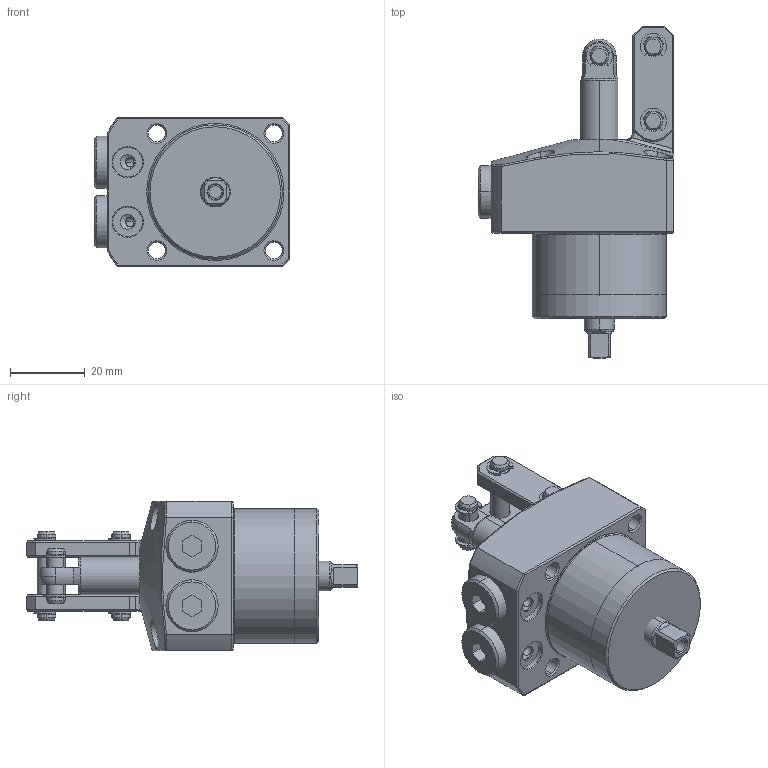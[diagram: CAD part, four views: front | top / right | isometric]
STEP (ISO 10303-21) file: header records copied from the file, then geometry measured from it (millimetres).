
FILE_DESCRIPTION(/* description */ (''),/* implementation_level */ '2;1');
FILE_NAME(/* name */ 'KTPC36-FD.stp',/* time_stamp */ '2022-11-18T16:01:53+08:00',/* author */ (''),/* organization */ (''),/* preprocessor_version */ 'ST-DEVELOPER v16.7',/* originating_system */ 'SIEMENS PLM Software NX 12.0',/* authorisation */ '');
FILE_SCHEMA (('AP203_CONFIGURATION_CONTROLLED_3D_DESIGN_OF_MECHANICAL_PARTS_AND_ASSEMBLIES_MIM_LF { 1 0 10303 403 2 1 2}'));
Length unit declared in the file: millimetre
Products named in the file (9): KTPC36-FD-01; KTPC36-FD-02; KTPC36-FD-05; KTPC36-FD-03; KTPC36-FD-07; KTPC36-FD-06; KTPC36-FD-04; KTPC36-FD-08; LKA0360-CCD_step
Assembly tree (16 placements, depth 2):
  LKA0360-CCD_step
    KTPC36-FD-08  x6
    KTPC36-FD-04  x2
    KTPC36-FD-06  x2
    KTPC36-FD-07  x2
    KTPC36-FD-03
    KTPC36-FD-05
    KTPC36-FD-02
    KTPC36-FD-01
Bounding box: 52.5 x 89 x 40 mm (x, y, z)
Volume: 89109 mm3; surface area: 23212.2 mm2
Topology: 16 solids, 16 shells, 556 faces, 1325 edges, 824 vertices
Faces by surface type: cylinder 210, plane 185, cone 76, torus 64, bspline 19, sphere 2
Full cylindrical faces by diameter (mm): 36 x1
Entity records: 12461 total; most frequent: CARTESIAN_POINT 3286, DIRECTION 1714, ORIENTED_EDGE 1616, EDGE_CURVE 808, AXIS2_PLACEMENT_3D 697, VERTEX_POINT 497, EDGE_LOOP 391, CIRCLE 350
